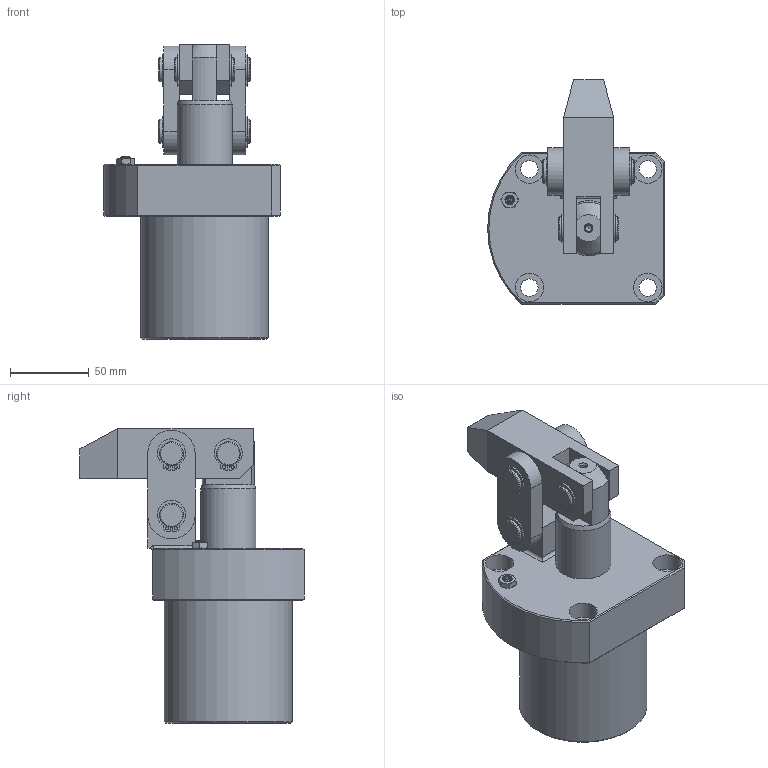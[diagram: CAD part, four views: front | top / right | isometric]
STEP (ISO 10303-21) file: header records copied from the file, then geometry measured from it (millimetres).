
FILE_DESCRIPTION(/* description */ ('Unknown'),/* implementation_level */ '2;1');
FILE_NAME(/* name */ 'HLC-FCM63-L-A',/* time_stamp */ '2022-11-23T03:56:04+08:00',/* author */ ('Unknown'),/* organization */ ('Unknown'),/* preprocessor_version */ 'ST-DEVELOPER v16.7',/* originating_system */ 'DEX',/* authorisation */ $);
FILE_SCHEMA (('AUTOMOTIVE_DESIGN {1 0 10303 214 3 1 1}'));
Length unit declared in the file: millimetre
Products named in the file (8): HLC-FCM63-L-A; HLC-FCM63-L-CYLINDER; HLC-6302-AXLE CENTRE; HLC-63-A; HLC-FCM63-墊; HLC-FCM63-PINµu; HLC-FCM63-PINªøaditional)_Taiwan.950; HLC-FCM63-C扣
Assembly tree (14 placements, depth 2):
  HLC-FCM63-L-A
    HLC-FCM63-L-CYLINDER
    HLC-6302-AXLE CENTRE
    HLC-63-A
    HLC-FCM63-墊  x2
    HLC-FCM63-PINµu
    HLC-FCM63-PINªøaditional)_Taiwan.950  x2
    HLC-FCM63-C扣  x6
Bounding box: 112 x 142 x 186.8 mm (x, y, z)
Volume: 804745 mm3; surface area: 141520.5 mm2
Topology: 14 solids, 14 shells, 294 faces, 676 edges, 440 vertices
Faces by surface type: plane 127, cylinder 124, cone 29, bspline 12, torus 2
Full cylindrical faces by diameter (mm): 2 x12, 4 x3, 6 x3, 11 x4, 12 x2, 14.15 x6, 15 x18, 18 x4, 35 x2, 62.4 x1, 63 x1, 81 x1
Entity records: 5397 total; most frequent: CARTESIAN_POINT 1173, DIRECTION 834, ORIENTED_EDGE 712, EDGE_CURVE 356, AXIS2_PLACEMENT_3D 348, FACE_BOUND 301, EDGE_LOOP 300, VERTEX_POINT 259
